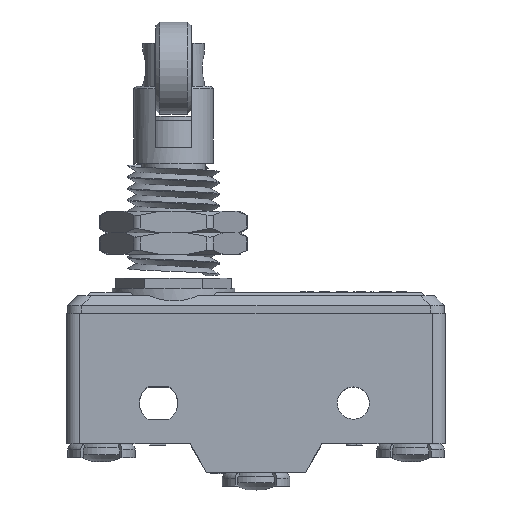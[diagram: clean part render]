
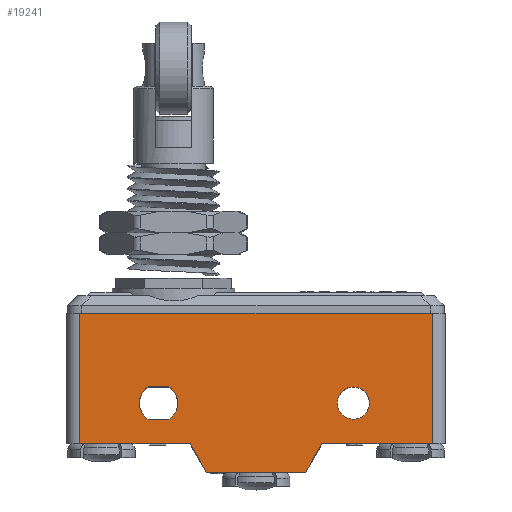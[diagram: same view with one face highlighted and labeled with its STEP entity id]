
A CAD part, top view. The second image highlights one B-rep face of the part: STEP entity #19241.
In plain terms, the highlighted planar face has unit normal (0, 0, 1).
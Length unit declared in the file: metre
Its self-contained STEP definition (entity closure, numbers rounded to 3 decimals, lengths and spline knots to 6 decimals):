
#16556=CARTESIAN_POINT('',(0.007871,-0.003357,0.05825));
#16557=VERTEX_POINT('',#16556);
#16560=CARTESIAN_POINT('',(0.005735,-0.007057,0.05825));
#16561=DIRECTION('',(0.5,0.866,0.));
#16562=VECTOR('',#16561,1.);
#16563=LINE('',#16560,#16562);
#16564=CARTESIAN_POINT('',(0.005735,-0.007057,0.05825));
#16565=VERTEX_POINT('',#16564);
#16566=EDGE_CURVE('',#16565,#16557,#16563,.T.);
#17342=CARTESIAN_POINT('',(-0.007193,-0.007057,0.05825));
#17343=DIRECTION('',(1.,0.,0.));
#17344=VECTOR('',#17343,1.);
#17345=LINE('',#17342,#17344);
#17346=CARTESIAN_POINT('',(-0.007193,-0.007057,0.05825));
#17347=VERTEX_POINT('',#17346);
#17348=EDGE_CURVE('',#17347,#16565,#17345,.T.);
#17429=CARTESIAN_POINT('',(-0.009329,-0.003357,0.05825));
#17430=DIRECTION('',(0.5,-0.866,0.));
#17431=VECTOR('',#17430,1.);
#17432=LINE('',#17429,#17431);
#17433=CARTESIAN_POINT('',(-0.009329,-0.003357,0.05825));
#17434=VERTEX_POINT('',#17433);
#17435=EDGE_CURVE('',#17434,#17347,#17432,.T.);
#18850=CARTESIAN_POINT('',(-0.025429,-0.003357,0.05825));
#18851=DIRECTION('',(1.,0.,0.));
#18852=VECTOR('',#18851,1.);
#18853=LINE('',#18850,#18852);
#18854=CARTESIAN_POINT('',(-0.023679,-0.003357,0.05825));
#18855=VERTEX_POINT('',#18854);
#18856=EDGE_CURVE('',#18855,#17434,#18853,.T.);
#18966=CARTESIAN_POINT('',(-0.023679,0.013643,0.05825));
#18967=VERTEX_POINT('',#18966);
#18972=CARTESIAN_POINT('',(-0.023679,0.001243,0.05825));
#18973=DIRECTION('',(0.,-1.,0.));
#18974=VECTOR('',#18973,1.);
#18975=LINE('',#18972,#18974);
#18976=EDGE_CURVE('',#18967,#18855,#18975,.T.);
#18999=CARTESIAN_POINT('',(0.022221,-0.003357,0.05825));
#19000=VERTEX_POINT('',#18999);
#19018=CARTESIAN_POINT('',(0.022221,0.013643,0.05825));
#19019=VERTEX_POINT('',#19018);
#19022=CARTESIAN_POINT('',(0.022221,0.001243,0.05825));
#19023=DIRECTION('',(0.,1.,0.));
#19024=VECTOR('',#19023,1.);
#19025=LINE('',#19022,#19024);
#19026=EDGE_CURVE('',#19000,#19019,#19025,.T.);
#19059=CARTESIAN_POINT('',(-0.014786,0.004043,0.05825));
#19060=VERTEX_POINT('',#19059);
#19063=CARTESIAN_POINT('',(-0.013429,0.001943,0.05825));
#19064=DIRECTION('',(0.,0.,1.));
#19065=DIRECTION('',(1.,0.,0.));
#19066=AXIS2_PLACEMENT_3D('',#19063,#19064,#19065);
#19067=CIRCLE('',#19066,0.0025);
#19068=CARTESIAN_POINT('',(-0.014786,-0.000157,0.05825));
#19069=VERTEX_POINT('',#19068);
#19070=EDGE_CURVE('',#19060,#19069,#19067,.T.);
#19103=CARTESIAN_POINT('',(-0.012073,-0.000157,0.05825));
#19104=DIRECTION('',(1.,0.,0.));
#19105=VECTOR('',#19104,1.);
#19106=LINE('',#19103,#19105);
#19107=CARTESIAN_POINT('',(-0.012073,-0.000157,0.05825));
#19108=VERTEX_POINT('',#19107);
#19109=EDGE_CURVE('',#19069,#19108,#19106,.T.);
#19133=CARTESIAN_POINT('',(-0.013429,0.001943,0.05825));
#19134=DIRECTION('',(0.,0.,1.));
#19135=DIRECTION('',(1.,0.,0.));
#19136=AXIS2_PLACEMENT_3D('',#19133,#19134,#19135);
#19137=CIRCLE('',#19136,0.0025);
#19138=CARTESIAN_POINT('',(-0.012073,0.004043,0.05825));
#19139=VERTEX_POINT('',#19138);
#19140=EDGE_CURVE('',#19108,#19139,#19137,.T.);
#19175=CARTESIAN_POINT('',(-0.012073,0.004043,0.05825));
#19176=DIRECTION('',(-1.,0.,0.));
#19177=VECTOR('',#19176,1.);
#19178=LINE('',#19175,#19177);
#19179=EDGE_CURVE('',#19139,#19060,#19178,.T.);
#19199=CARTESIAN_POINT('',(0.012611,0.001243,0.05825));
#19200=DIRECTION('',(0.,0.,-1.));
#19201=DIRECTION('',(-1.,0.,0.));
#19202=AXIS2_PLACEMENT_3D('',#19199,#19200,#19201);
#19203=PLANE('',#19202);
#19204=ORIENTED_EDGE('',*,*,#19179,.F.);
#19205=ORIENTED_EDGE('',*,*,#19140,.F.);
#19206=ORIENTED_EDGE('',*,*,#19109,.F.);
#19207=ORIENTED_EDGE('',*,*,#19070,.F.);
#19208=EDGE_LOOP('',(#19204,#19205,#19206,#19207));
#19209=FACE_BOUND('',#19208,.T.);
#19210=CARTESIAN_POINT('',(0.011971,0.001943,0.05825));
#19211=DIRECTION('',(0.,0.,1.));
#19212=DIRECTION('',(1.,0.,0.));
#19213=AXIS2_PLACEMENT_3D('',#19210,#19211,#19212);
#19214=CIRCLE('',#19213,0.0021);
#19215=CARTESIAN_POINT('',(0.009871,0.001943,0.05825));
#19216=VERTEX_POINT('',#19215);
#19217=EDGE_CURVE('',#19216,#19216,#19214,.T.);
#19218=ORIENTED_EDGE('',*,*,#19217,.F.);
#19219=EDGE_LOOP('',(#19218));
#19220=FACE_BOUND('',#19219,.T.);
#19221=CARTESIAN_POINT('',(0.007871,-0.003357,0.05825));
#19222=DIRECTION('',(1.,0.,0.));
#19223=VECTOR('',#19222,1.);
#19224=LINE('',#19221,#19223);
#19225=EDGE_CURVE('',#16557,#19000,#19224,.T.);
#19226=ORIENTED_EDGE('',*,*,#19225,.T.);
#19227=ORIENTED_EDGE('',*,*,#19026,.T.);
#19228=CARTESIAN_POINT('',(0.023971,0.013643,0.05825));
#19229=DIRECTION('',(-1.,0.,0.));
#19230=VECTOR('',#19229,1.);
#19231=LINE('',#19228,#19230);
#19232=EDGE_CURVE('',#19019,#18967,#19231,.T.);
#19233=ORIENTED_EDGE('',*,*,#19232,.T.);
#19234=ORIENTED_EDGE('',*,*,#18976,.T.);
#19235=ORIENTED_EDGE('',*,*,#18856,.T.);
#19236=ORIENTED_EDGE('',*,*,#17435,.T.);
#19237=ORIENTED_EDGE('',*,*,#17348,.T.);
#19238=ORIENTED_EDGE('',*,*,#16566,.T.);
#19239=EDGE_LOOP('',(#19226,#19227,#19233,#19234,#19235,#19236,#19237,#19238));
#19240=FACE_BOUND('',#19239,.T.);
#19241=ADVANCED_FACE('',(#19209,#19220,#19240),#19203,.F.);
